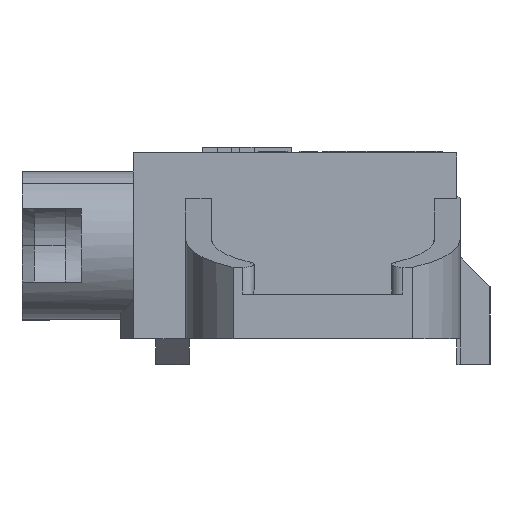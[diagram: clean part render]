
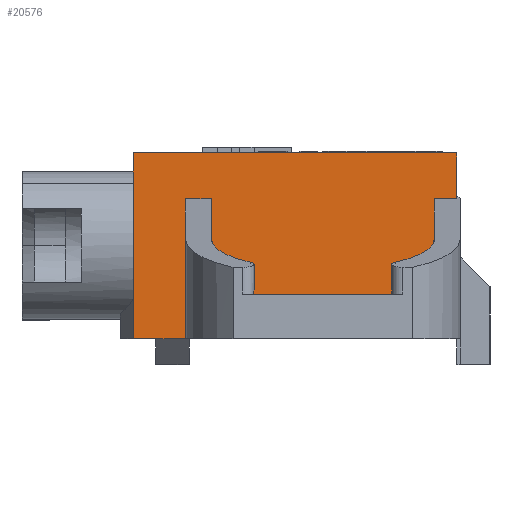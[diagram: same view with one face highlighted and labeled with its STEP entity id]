
A CAD part, left-side view. The second image highlights one B-rep face of the part: STEP entity #20576.
In plain terms, the highlighted planar face has unit normal (-1, 0, 0).
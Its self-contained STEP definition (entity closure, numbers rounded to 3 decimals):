
#5631=CARTESIAN_POINT(' ',(-35.45,5.75,0.));
#5632=VERTEX_POINT(' ',#5631);
#5646=CARTESIAN_POINT(' ',(-35.45,7.15,0.));
#5651=DIRECTION(' ',(0.,-1.,0.));
#5656=VECTOR(' ',#5651,1.);
#5661=LINE('',#5646,#5656);
#5666=CARTESIAN_POINT(' ',(-35.45,7.15,0.));
#5667=VERTEX_POINT(' ',#5666);
#5671=EDGE_CURVE(' ',#5667,#5632,#5661,.T.);
#5986=CARTESIAN_POINT(' ',(-35.45,2.75,0.));
#5991=DIRECTION(' ',(0.,-1.,0.));
#5996=VECTOR(' ',#5991,1.);
#6001=LINE('',#5986,#5996);
#6006=CARTESIAN_POINT(' ',(-35.45,2.75,0.));
#6007=VERTEX_POINT(' ',#6006);
#6011=CARTESIAN_POINT(' ',(-35.45,1.95,0.));
#6012=VERTEX_POINT(' ',#6011);
#6016=EDGE_CURVE(' ',#6007,#6012,#6001,.T.);
#8641=CARTESIAN_POINT(' ',(-35.45,-1.55,3.767));
#8642=VERTEX_POINT(' ',#8641);
#8716=CARTESIAN_POINT(' ',(-35.45,-1.55,5.));
#8717=VERTEX_POINT(' ',#8716);
#8731=CARTESIAN_POINT(' ',(-35.45,-1.55,5.));
#8736=DIRECTION(' ',(0.,0.,-1.));
#8741=VECTOR(' ',#8736,1.);
#8746=LINE('',#8731,#8741);
#8751=EDGE_CURVE(' ',#8717,#8642,#8746,.T.);
#8866=CARTESIAN_POINT(' ',(-35.45,7.15,5.));
#8867=VERTEX_POINT(' ',#8866);
#8881=CARTESIAN_POINT(' ',(-35.45,7.15,5.));
#8886=DIRECTION(' ',(0.,-1.,0.));
#8891=VECTOR(' ',#8886,1.);
#8896=LINE('',#8881,#8891);
#8901=EDGE_CURVE(' ',#8867,#8717,#8896,.T.);
#11406=CARTESIAN_POINT(' ',(-35.45,7.15,5.));
#11411=DIRECTION(' ',(0.,0.,-1.));
#11416=VECTOR(' ',#11411,1.);
#11421=LINE('',#11406,#11416);
#11426=EDGE_CURVE(' ',#8867,#5667,#11421,.T.);
#20211=CARTESIAN_POINT(' ',(-35.45,-1.55,0.));
#20216=DIRECTION(' ',(-1.,0.,0.));
#20221=DIRECTION(' ',(0.,0.,1.));
#20226=AXIS2_PLACEMENT_3D(' ',#20211,#20216,#20221);
#20231=PLANE(' ',#20226);
#20236=CARTESIAN_POINT(' ',(-35.45,5.75,0.));
#20241=DIRECTION(' ',(0.,0.,1.));
#20246=VECTOR(' ',#20241,1.);
#20251=LINE('',#20236,#20246);
#20256=CARTESIAN_POINT(' ',(-35.45,5.75,3.767));
#20257=VERTEX_POINT(' ',#20256);
#20261=EDGE_CURVE(' ',#5632,#20257,#20251,.T.);
#20266=ORIENTED_EDGE(' ',*,*,#20261,.T.);
#20271=CARTESIAN_POINT(' ',(-35.45,5.05,3.767));
#20276=DIRECTION(' ',(0.,1.,0.));
#20281=VECTOR(' ',#20276,1.);
#20286=LINE('',#20271,#20281);
#20291=CARTESIAN_POINT(' ',(-35.45,5.05,3.767));
#20292=VERTEX_POINT(' ',#20291);
#20296=EDGE_CURVE(' ',#20292,#20257,#20286,.T.);
#20301=ORIENTED_EDGE(' ',*,*,#20296,.F.);
#20306=CARTESIAN_POINT(' ',(-35.45,5.05,3.767));
#20311=DIRECTION(' ',(0.,0.,-1.));
#20316=VECTOR(' ',#20311,1.);
#20321=LINE('',#20306,#20316);
#20326=CARTESIAN_POINT(' ',(-35.45,5.05,1.2));
#20327=VERTEX_POINT(' ',#20326);
#20331=EDGE_CURVE(' ',#20292,#20327,#20321,.T.);
#20336=ORIENTED_EDGE(' ',*,*,#20331,.T.);
#20341=CARTESIAN_POINT(' ',(-35.45,2.75,1.2));
#20346=DIRECTION(' ',(0.,1.,0.));
#20351=VECTOR(' ',#20346,1.);
#20356=LINE('',#20341,#20351);
#20361=CARTESIAN_POINT(' ',(-35.45,2.75,1.2));
#20362=VERTEX_POINT(' ',#20361);
#20366=EDGE_CURVE(' ',#20362,#20327,#20356,.T.);
#20371=ORIENTED_EDGE(' ',*,*,#20366,.F.);
#20376=CARTESIAN_POINT(' ',(-35.45,2.75,1.2));
#20381=DIRECTION(' ',(0.,0.,-1.));
#20386=VECTOR(' ',#20381,1.);
#20391=LINE('',#20376,#20386);
#20396=EDGE_CURVE(' ',#20362,#6007,#20391,.T.);
#20401=ORIENTED_EDGE(' ',*,*,#20396,.T.);
#20406=ORIENTED_EDGE(' ',*,*,#6016,.T.);
#20411=CARTESIAN_POINT(' ',(-35.45,1.95,1.2));
#20416=DIRECTION(' ',(0.,0.,-1.));
#20421=VECTOR(' ',#20416,1.);
#20426=LINE('',#20411,#20421);
#20431=CARTESIAN_POINT(' ',(-35.45,1.95,1.2));
#20432=VERTEX_POINT(' ',#20431);
#20436=EDGE_CURVE(' ',#20432,#6012,#20426,.T.);
#20441=ORIENTED_EDGE(' ',*,*,#20436,.F.);
#20446=CARTESIAN_POINT(' ',(-35.45,-0.95,1.2));
#20451=DIRECTION(' ',(0.,1.,0.));
#20456=VECTOR(' ',#20451,1.);
#20461=LINE('',#20446,#20456);
#20466=CARTESIAN_POINT(' ',(-35.45,-0.95,1.2));
#20467=VERTEX_POINT(' ',#20466);
#20471=EDGE_CURVE(' ',#20467,#20432,#20461,.T.);
#20476=ORIENTED_EDGE(' ',*,*,#20471,.F.);
#20481=CARTESIAN_POINT(' ',(-35.45,-0.95,1.2));
#20486=DIRECTION(' ',(0.,0.,1.));
#20491=VECTOR(' ',#20486,1.);
#20496=LINE('',#20481,#20491);
#20501=CARTESIAN_POINT(' ',(-35.45,-0.95,3.767));
#20502=VERTEX_POINT(' ',#20501);
#20506=EDGE_CURVE(' ',#20467,#20502,#20496,.T.);
#20511=ORIENTED_EDGE(' ',*,*,#20506,.T.);
#20516=CARTESIAN_POINT(' ',(-35.45,-1.55,3.767));
#20521=DIRECTION(' ',(0.,1.,0.));
#20526=VECTOR(' ',#20521,1.);
#20531=LINE('',#20516,#20526);
#20536=EDGE_CURVE(' ',#8642,#20502,#20531,.T.);
#20541=ORIENTED_EDGE(' ',*,*,#20536,.F.);
#20546=ORIENTED_EDGE(' ',*,*,#8751,.F.);
#20551=ORIENTED_EDGE(' ',*,*,#8901,.F.);
#20556=ORIENTED_EDGE(' ',*,*,#11426,.T.);
#20561=ORIENTED_EDGE(' ',*,*,#5671,.T.);
#20566=EDGE_LOOP(' ',(#20266,#20301,#20336,#20371,#20401,#20406,#20441,#20476,#20511,#20541,#20546,#20551,#20556,#20561));
#20571=FACE_OUTER_BOUND(' ',#20566,.T.);
#20576=ADVANCED_FACE('',(#20571),#20231,.T.);
